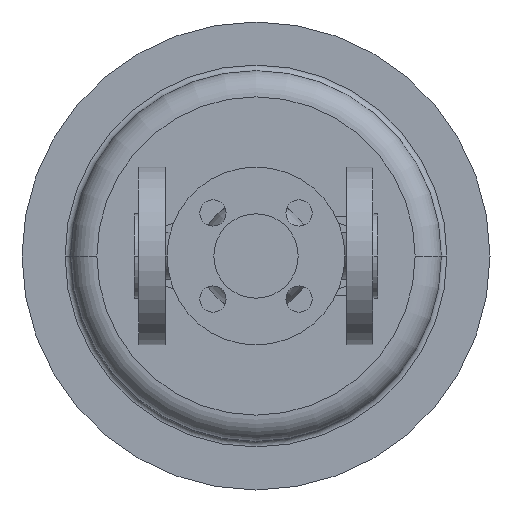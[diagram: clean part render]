
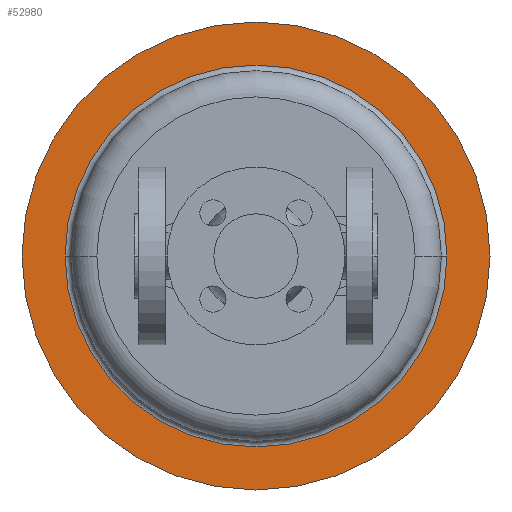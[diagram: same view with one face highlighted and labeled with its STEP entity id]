
A CAD part, front view. The second image highlights one B-rep face of the part: STEP entity #52980.
In plain terms, the highlighted planar face has unit normal (0, -1, 0).
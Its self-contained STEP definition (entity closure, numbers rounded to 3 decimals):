
#37950=CARTESIAN_POINT('',(190.,383.,0.));
#37960=VERTEX_POINT('',#37950);
#37990=CARTESIAN_POINT('',(65.,383.,0.));
#38000=DIRECTION('',(0.,1.,0.));
#38010=DIRECTION('',(1.,0.,0.));
#38020=AXIS2_PLACEMENT_3D('',#37990,#38000,#38010);
#38030=CIRCLE('',#38020,125.);
#38040=CARTESIAN_POINT('',(-60.,383.,0.));
#38050=VERTEX_POINT('',#38040);
#38060=EDGE_CURVE('',#38050,#37960,#38030,.T.);
#38380=CARTESIAN_POINT('',(167.,383.,0.));
#38390=VERTEX_POINT('',#38380);
#38420=CARTESIAN_POINT('',(65.,383.,0.));
#38430=DIRECTION('',(0.,1.,0.));
#38440=DIRECTION('',(1.,0.,0.));
#38450=AXIS2_PLACEMENT_3D('',#38420,#38430,#38440);
#38460=CIRCLE('',#38450,102.);
#38470=CARTESIAN_POINT('',(-37.,383.,0.));
#38480=VERTEX_POINT('',#38470);
#38490=EDGE_CURVE('',#38390,#38480,#38460,.T.);
#52830=CARTESIAN_POINT('',(178.5,383.,0.));
#52840=DIRECTION('',(0.,-1.,0.));
#52850=DIRECTION('',(-1.,0.,0.));
#52860=AXIS2_PLACEMENT_3D('',#52830,#52840,#52850);
#52870=PLANE('',#52860);
#52880=EDGE_CURVE('',#37960,#38050,#38030,.T.);
#52890=ORIENTED_EDGE('',*,*,#52880,.F.);
#52900=ORIENTED_EDGE('',*,*,#38060,.F.);
#52910=EDGE_LOOP('',(#52900,#52890));
#52920=FACE_OUTER_BOUND('',#52910,.T.);
#52930=ORIENTED_EDGE('',*,*,#38490,.T.);
#52940=EDGE_CURVE('',#38480,#38390,#38460,.T.);
#52950=ORIENTED_EDGE('',*,*,#52940,.T.);
#52960=EDGE_LOOP('',(#52950,#52930));
#52970=FACE_BOUND('',#52960,.T.);
#52980=ADVANCED_FACE('',(#52920,#52970),#52870,.T.);
